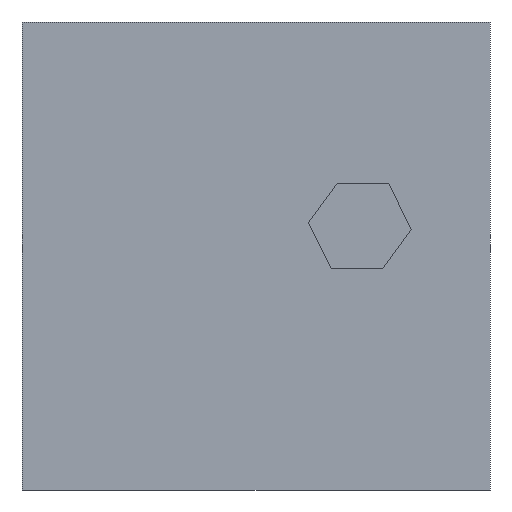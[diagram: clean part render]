
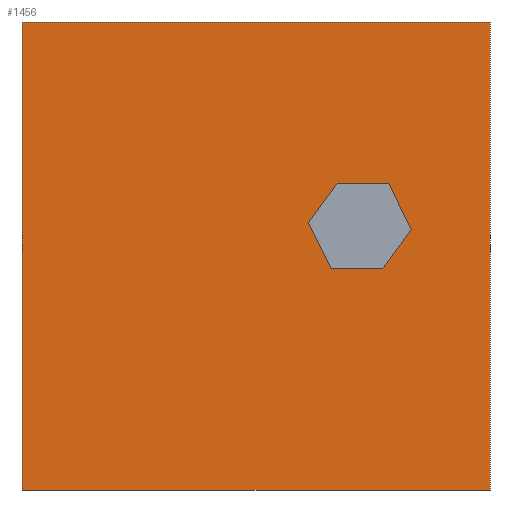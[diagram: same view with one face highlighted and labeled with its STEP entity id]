
A CAD part, front view. The second image highlights one B-rep face of the part: STEP entity #1456.
In plain terms, the highlighted planar face has unit normal (0, -1, 0).
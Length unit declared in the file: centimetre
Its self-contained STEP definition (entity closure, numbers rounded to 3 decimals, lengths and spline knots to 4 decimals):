
#8 = VERTEX_POINT ( 'NONE', #596 ) ;
#16 = ORIENTED_EDGE ( 'NONE', *, *, #511, .F. ) ;
#39 = VECTOR ( 'NONE', #141, 100. ) ;
#52 = EDGE_CURVE ( 'NONE', #158, #884, #901, .T. ) ;
#75 = CARTESIAN_POINT ( 'NONE',  ( 1000., 0., 1000. ) ) ;
#87 = EDGE_CURVE ( 'NONE', #1483, #1274, #1408, .T. ) ;
#120 = ORIENTED_EDGE ( 'NONE', *, *, #628, .F. ) ;
#135 = EDGE_CURVE ( 'NONE', #8, #1231, #261, .T. ) ;
#141 = DIRECTION ( 'NONE',  ( 0.441, 0., -0.898 ) ) ;
#158 = VERTEX_POINT ( 'NONE', #1320 ) ;
#171 = VECTOR ( 'NONE', #660, 100. ) ;
#183 = EDGE_CURVE ( 'NONE', #1238, #1060, #947, .T. ) ;
#221 = VECTOR ( 'NONE', #1262, 100. ) ;
#231 = CARTESIAN_POINT ( 'NONE',  ( 783.3576, 0., 655.9355 ) ) ;
#261 = LINE ( 'NONE', #1314, #39 ) ;
#286 = EDGE_CURVE ( 'NONE', #158, #1238, #727, .T. ) ;
#311 = FACE_OUTER_BOUND ( 'NONE', #963, .T. ) ;
#366 = CARTESIAN_POINT ( 'NONE',  ( 783.3576, 0., 655.9355 ) ) ;
#431 = CARTESIAN_POINT ( 'NONE',  ( 660.6936, 0., 472.9325 ) ) ;
#434 = LINE ( 'NONE', #556, #221 ) ;
#449 = DIRECTION ( 'NONE',  ( -1., 0., 0. ) ) ;
#486 = VERTEX_POINT ( 'NONE', #1340 ) ;
#511 = EDGE_CURVE ( 'NONE', #1231, #486, #908, .T. ) ;
#514 = ORIENTED_EDGE ( 'NONE', *, *, #962, .F. ) ;
#543 = DIRECTION ( 'NONE',  ( 0., 0., 1. ) ) ;
#556 = CARTESIAN_POINT ( 'NONE',  ( 673.449, 0., 655.9355 ) ) ;
#568 = CARTESIAN_POINT ( 'NONE',  ( 0., 0., 1000. ) ) ;
#596 = CARTESIAN_POINT ( 'NONE',  ( 612.1169, 0., 571.7983 ) ) ;
#600 = CARTESIAN_POINT ( 'NONE',  ( 0., 0., 1000. ) ) ;
#628 = EDGE_CURVE ( 'NONE', #1274, #1144, #1384, .T. ) ;
#654 = CARTESIAN_POINT ( 'NONE',  ( 831.9342, 0., 557.0696 ) ) ;
#655 = VECTOR ( 'NONE', #712, 100. ) ;
#660 = DIRECTION ( 'NONE',  ( 0., 0., -1. ) ) ;
#700 = EDGE_LOOP ( 'NONE', ( #120, #1128, #866, #16, #1012, #1471 ) ) ;
#712 = DIRECTION ( 'NONE',  ( 1., 0., 0. ) ) ;
#727 = LINE ( 'NONE', #600, #860 ) ;
#739 = VECTOR ( 'NONE', #449, 100. ) ;
#769 = LINE ( 'NONE', #1337, #1183 ) ;
#772 = DIRECTION ( 'NONE',  ( 0., 1., 0. ) ) ;
#846 = CARTESIAN_POINT ( 'NONE',  ( 0., 0., 0. ) ) ;
#860 = VECTOR ( 'NONE', #1443, 100. ) ;
#866 = ORIENTED_EDGE ( 'NONE', *, *, #931, .F. ) ;
#884 = VERTEX_POINT ( 'NONE', #1013 ) ;
#898 = PLANE ( 'NONE',  #916 ) ;
#901 = LINE ( 'NONE', #1164, #974 ) ;
#907 = VECTOR ( 'NONE', #1120, 100. ) ;
#908 = LINE ( 'NONE', #431, #907 ) ;
#916 = AXIS2_PLACEMENT_3D ( 'NONE', #568, #772, #543 ) ;
#931 = EDGE_CURVE ( 'NONE', #486, #1483, #769, .T. ) ;
#942 = CARTESIAN_POINT ( 'NONE',  ( 831.9342, 0., 557.0696 ) ) ;
#947 = LINE ( 'NONE', #970, #655 ) ;
#956 = CARTESIAN_POINT ( 'NONE',  ( 660.6936, 0., 472.9325 ) ) ;
#962 = EDGE_CURVE ( 'NONE', #884, #1060, #1127, .T. ) ;
#963 = EDGE_LOOP ( 'NONE', ( #1101, #514, #1499, #1153 ) ) ;
#970 = CARTESIAN_POINT ( 'NONE',  ( 0., 0., 0. ) ) ;
#974 = VECTOR ( 'NONE', #1059, 100. ) ;
#1012 = ORIENTED_EDGE ( 'NONE', *, *, #135, .F. ) ;
#1013 = CARTESIAN_POINT ( 'NONE',  ( 1000., 0., 1000. ) ) ;
#1059 = DIRECTION ( 'NONE',  ( 1., 0., 0. ) ) ;
#1060 = VERTEX_POINT ( 'NONE', #1173 ) ;
#1070 = DIRECTION ( 'NONE',  ( -0.441, 0., 0.898 ) ) ;
#1078 = EDGE_CURVE ( 'NONE', #1144, #8, #434, .T. ) ;
#1097 = VECTOR ( 'NONE', #1070, 100. ) ;
#1101 = ORIENTED_EDGE ( 'NONE', *, *, #183, .T. ) ;
#1120 = DIRECTION ( 'NONE',  ( 1., 0., 0. ) ) ;
#1127 = LINE ( 'NONE', #75, #171 ) ;
#1128 = ORIENTED_EDGE ( 'NONE', *, *, #87, .F. ) ;
#1144 = VERTEX_POINT ( 'NONE', #1293 ) ;
#1153 = ORIENTED_EDGE ( 'NONE', *, *, #286, .T. ) ;
#1164 = CARTESIAN_POINT ( 'NONE',  ( 0., 0., 1000. ) ) ;
#1173 = CARTESIAN_POINT ( 'NONE',  ( 1000., 0., 0. ) ) ;
#1183 = VECTOR ( 'NONE', #1239, 100. ) ;
#1231 = VERTEX_POINT ( 'NONE', #956 ) ;
#1238 = VERTEX_POINT ( 'NONE', #846 ) ;
#1239 = DIRECTION ( 'NONE',  ( 0.589, 0., 0.808 ) ) ;
#1262 = DIRECTION ( 'NONE',  ( -0.589, 0., -0.808 ) ) ;
#1274 = VERTEX_POINT ( 'NONE', #366 ) ;
#1293 = CARTESIAN_POINT ( 'NONE',  ( 673.449, 0., 655.9355 ) ) ;
#1314 = CARTESIAN_POINT ( 'NONE',  ( 612.1169, 0., 571.7983 ) ) ;
#1320 = CARTESIAN_POINT ( 'NONE',  ( 0., 0., 1000. ) ) ;
#1337 = CARTESIAN_POINT ( 'NONE',  ( 770.6022, 0., 472.9325 ) ) ;
#1340 = CARTESIAN_POINT ( 'NONE',  ( 770.6022, 0., 472.9325 ) ) ;
#1384 = LINE ( 'NONE', #231, #739 ) ;
#1388 = FACE_BOUND ( 'NONE', #700, .T. ) ;
#1408 = LINE ( 'NONE', #942, #1097 ) ;
#1443 = DIRECTION ( 'NONE',  ( 0., 0., -1. ) ) ;
#1456 = ADVANCED_FACE ( 'NONE', ( #1388, #311 ), #898, .F. ) ;
#1471 = ORIENTED_EDGE ( 'NONE', *, *, #1078, .F. ) ;
#1483 = VERTEX_POINT ( 'NONE', #654 ) ;
#1499 = ORIENTED_EDGE ( 'NONE', *, *, #52, .F. ) ;
